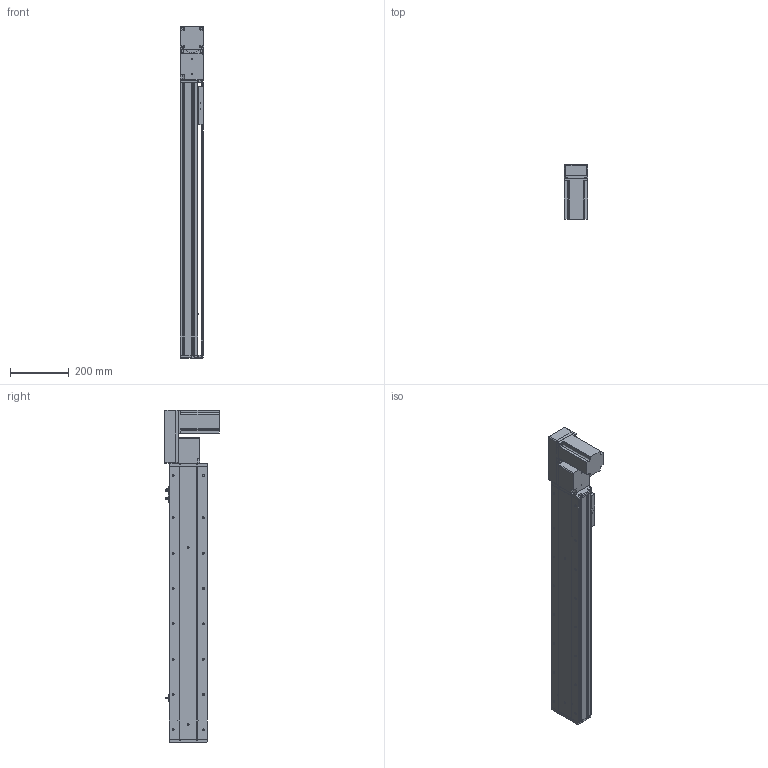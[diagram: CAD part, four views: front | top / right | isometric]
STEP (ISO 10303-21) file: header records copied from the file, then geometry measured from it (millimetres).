
FILE_DESCRIPTION (( 'STEP AP214' ), '1' );
FILE_NAME ('KSD130B-S700-MRB-CM.STEP', '2019-09-21T06:53:18', ( '微软用户' ), ( '微软中国' ), 'SwSTEP 2.0', 'SolidWorks 2014', '' );
FILE_SCHEMA (( 'AUTOMOTIVE_DESIGN' ));
Length unit declared in the file: millimetre
Products named in the file (12): U倰嫖萇EEㄜSX672; 130宽盖板半封闭同步带-700行程; 130宽马达安装板同步带右-改镜向_默认<按加工>; 130宽马达安装板同步带半封闭; 130宽同步带安装座半封闭; 130宽端盖同步带半封闭; 130宽底板半封闭同步带-700行程; KSD130B-S700-MRB-CM; 台达ECMA－C20807AS伺服电机; 130宽模组保护罩上下左右折-同步带; 130宽模组马达安装板连板左右折同步带; 覜茼え100遵圉猾敕
Assembly tree (13 placements, depth 2):
  KSD130B-S700-MRB-CM
    130宽底板半封闭同步带-700行程
    130宽端盖同步带半封闭
    130宽同步带安装座半封闭
    130宽马达安装板同步带半封闭
    130宽马达安装板同步带右-改镜向_默认<按加工>
    130宽盖板半封闭同步带-700行程
    U倰嫖萇EEㄜSX672  x3
    覜茼え100遵圉猾敕
    130宽模组马达安装板连板左右折同步带
    130宽模组保护罩上下左右折-同步带
    台达ECMA－C20807AS伺服电机
Bounding box: 81 x 184.8 x 1127 mm (x, y, z)
Volume: 4179577.8 mm3; surface area: 1113309 mm2
Topology: 14 solids, 14 shells, 1457 faces, 4121 edges, 2641 vertices
Faces by surface type: cylinder 688, plane 614, cone 155
Entity records: 47099 total; most frequent: CARTESIAN_POINT 8550, DIRECTION 7203, ORIENTED_EDGE 6918, EDGE_CURVE 3459, AXIS2_PLACEMENT_3D 2614, VERTEX_POINT 2265, LINE 1975, VECTOR 1975
